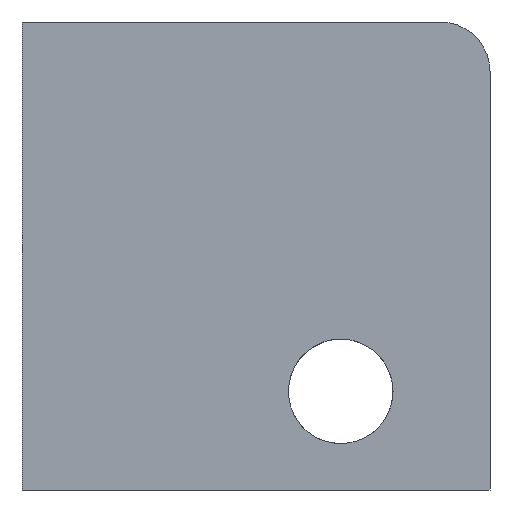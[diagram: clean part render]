
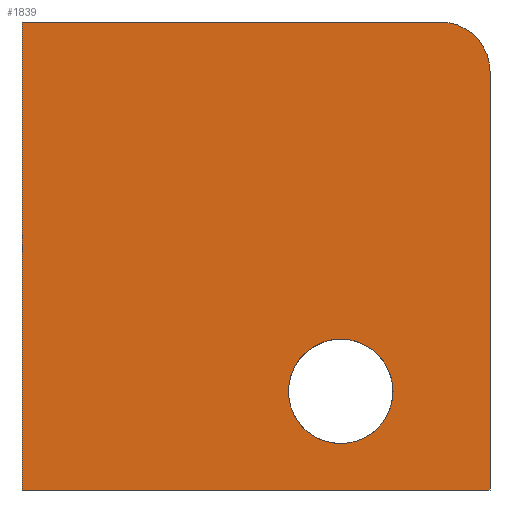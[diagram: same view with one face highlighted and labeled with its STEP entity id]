
A CAD part, left-side view. The second image highlights one B-rep face of the part: STEP entity #1839.
In plain terms, the highlighted planar face has unit normal (-1, 0, 0).
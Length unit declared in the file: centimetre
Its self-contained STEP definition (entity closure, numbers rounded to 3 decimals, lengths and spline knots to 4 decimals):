
#13 = CARTESIAN_POINT ( 'NONE',  ( 0., 1000., 1000. ) ) ;
#58 = CARTESIAN_POINT ( 'NONE',  ( 0., 319.0095, 99.1226 ) ) ;
#112 = DIRECTION ( 'NONE',  ( 0., 0., -1. ) ) ;
#115 = EDGE_CURVE ( 'NONE', #805, #560, #1415, .T. ) ;
#162 = ORIENTED_EDGE ( 'NONE', *, *, #794, .F. ) ;
#241 = VECTOR ( 'NONE', #1090, 100. ) ;
#260 = ORIENTED_EDGE ( 'NONE', *, *, #115, .T. ) ;
#322 = ORIENTED_EDGE ( 'NONE', *, *, #1620, .T. ) ;
#348 = CARTESIAN_POINT ( 'NONE',  ( 0., 1000., 1000. ) ) ;
#406 = FACE_BOUND ( 'NONE', #1297, .T. ) ;
#444 = LINE ( 'NONE', #1902, #678 ) ;
#480 = VERTEX_POINT ( 'NONE', #1820 ) ;
#509 = CARTESIAN_POINT ( 'NONE',  ( 0., 319.0095, 322.6277 ) ) ;
#512 = CARTESIAN_POINT ( 'NONE',  ( 0., 1000., 1000. ) ) ;
#560 = VERTEX_POINT ( 'NONE', #663 ) ;
#566 = VERTEX_POINT ( 'NONE', #58 ) ;
#583 = VERTEX_POINT ( 'NONE', #509 ) ;
#612 = CIRCLE ( 'NONE', #1694, 105.9433 ) ;
#647 = VECTOR ( 'NONE', #1687, 100. ) ;
#663 = CARTESIAN_POINT ( 'NONE',  ( 0., 0., 0. ) ) ;
#669 = CARTESIAN_POINT ( 'NONE',  ( 0., 319.0095, 210.8751 ) ) ;
#678 = VECTOR ( 'NONE', #112, 100. ) ;
#687 = EDGE_CURVE ( 'NONE', #566, #583, #834, .T. ) ;
#711 = PLANE ( 'NONE',  #1301 ) ;
#724 = EDGE_CURVE ( 'NONE', #583, #566, #1335, .T. ) ;
#786 = LINE ( 'NONE', #348, #1240 ) ;
#794 = EDGE_CURVE ( 'NONE', #1588, #560, #444, .T. ) ;
#805 = VERTEX_POINT ( 'NONE', #878 ) ;
#834 = CIRCLE ( 'NONE', #897, 111.7526 ) ;
#878 = CARTESIAN_POINT ( 'NONE',  ( 0., 1000., 0. ) ) ;
#887 = EDGE_LOOP ( 'NONE', ( #162, #1141, #1691, #322, #260 ) ) ;
#897 = AXIS2_PLACEMENT_3D ( 'NONE', #954, #1406, #1275 ) ;
#954 = CARTESIAN_POINT ( 'NONE',  ( 0., 319.0095, 210.8751 ) ) ;
#1005 = FACE_OUTER_BOUND ( 'NONE', #887, .T. ) ;
#1010 = EDGE_CURVE ( 'NONE', #1396, #480, #786, .T. ) ;
#1090 = DIRECTION ( 'NONE',  ( 0., -1., 0. ) ) ;
#1095 = DIRECTION ( 'NONE',  ( 0., -1., 0. ) ) ;
#1101 = LINE ( 'NONE', #512, #647 ) ;
#1141 = ORIENTED_EDGE ( 'NONE', *, *, #1479, .T. ) ;
#1164 = DIRECTION ( 'NONE',  ( 0., 0., -1. ) ) ;
#1194 = ORIENTED_EDGE ( 'NONE', *, *, #724, .T. ) ;
#1240 = VECTOR ( 'NONE', #1095, 100. ) ;
#1275 = DIRECTION ( 'NONE',  ( 0., 0., -1. ) ) ;
#1297 = EDGE_LOOP ( 'NONE', ( #1660, #1194 ) ) ;
#1301 = AXIS2_PLACEMENT_3D ( 'NONE', #1307, #1608, #1164 ) ;
#1307 = CARTESIAN_POINT ( 'NONE',  ( 0., 1000., 1000. ) ) ;
#1335 = CIRCLE ( 'NONE', #1787, 111.7526 ) ;
#1382 = DIRECTION ( 'NONE',  ( 0., 0., -1. ) ) ;
#1396 = VERTEX_POINT ( 'NONE', #13 ) ;
#1406 = DIRECTION ( 'NONE',  ( 1., 0., 0. ) ) ;
#1415 = LINE ( 'NONE', #1534, #241 ) ;
#1479 = EDGE_CURVE ( 'NONE', #1588, #480, #612, .T. ) ;
#1490 = CARTESIAN_POINT ( 'NONE',  ( 0., 105.9433, 894.0567 ) ) ;
#1534 = CARTESIAN_POINT ( 'NONE',  ( 0., 1000., 0. ) ) ;
#1572 = DIRECTION ( 'NONE',  ( 0., 0., -1. ) ) ;
#1588 = VERTEX_POINT ( 'NONE', #1647 ) ;
#1608 = DIRECTION ( 'NONE',  ( 1., 0., 0. ) ) ;
#1620 = EDGE_CURVE ( 'NONE', #1396, #805, #1101, .T. ) ;
#1647 = CARTESIAN_POINT ( 'NONE',  ( 0., 0., 894.0567 ) ) ;
#1660 = ORIENTED_EDGE ( 'NONE', *, *, #687, .T. ) ;
#1687 = DIRECTION ( 'NONE',  ( 0., 0., -1. ) ) ;
#1691 = ORIENTED_EDGE ( 'NONE', *, *, #1010, .F. ) ;
#1694 = AXIS2_PLACEMENT_3D ( 'NONE', #1490, #1800, #1382 ) ;
#1695 = DIRECTION ( 'NONE',  ( 1., 0., 0. ) ) ;
#1787 = AXIS2_PLACEMENT_3D ( 'NONE', #669, #1695, #1572 ) ;
#1800 = DIRECTION ( 'NONE',  ( -1., 0., 0. ) ) ;
#1820 = CARTESIAN_POINT ( 'NONE',  ( 0., 105.9433, 1000. ) ) ;
#1839 = ADVANCED_FACE ( 'NONE', ( #406, #1005 ), #711, .F. ) ;
#1902 = CARTESIAN_POINT ( 'NONE',  ( 0., 0., 1000. ) ) ;
